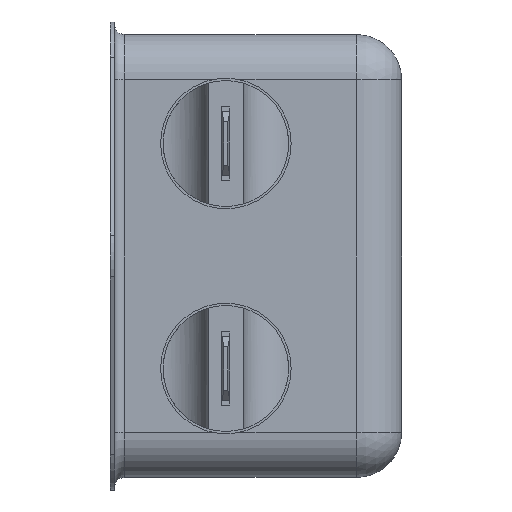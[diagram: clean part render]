
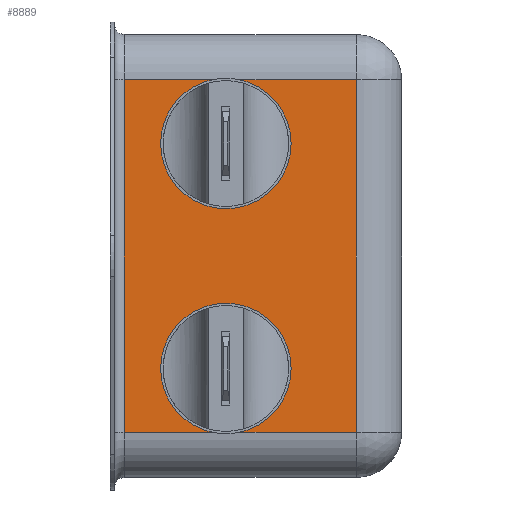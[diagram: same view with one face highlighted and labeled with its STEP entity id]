
A CAD part, left-side view. The second image highlights one B-rep face of the part: STEP entity #8889.
In plain terms, the highlighted planar face has unit normal (-1, 0, 0).
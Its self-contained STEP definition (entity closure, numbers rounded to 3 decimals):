
#211 = EDGE_CURVE ( 'NONE', #3933, #521, #1016, .T. ) ;
#296 = EDGE_CURVE ( 'NONE', #12578, #8401, #2027, .T. ) ;
#366 = LINE ( 'NONE', #2919, #9474 ) ;
#521 = VERTEX_POINT ( 'NONE', #14806 ) ;
#542 = EDGE_CURVE ( 'NONE', #15075, #521, #12002, .T. ) ;
#738 = VERTEX_POINT ( 'NONE', #10107 ) ;
#776 = LINE ( 'NONE', #5732, #6719 ) ;
#956 = VERTEX_POINT ( 'NONE', #4411 ) ;
#964 = CARTESIAN_POINT ( 'NONE',  ( 9.946, 4.5, -5.75 ) ) ;
#1016 = LINE ( 'NONE', #3266, #6968 ) ;
#1235 = EDGE_CURVE ( 'NONE', #738, #1728, #776, .T. ) ;
#1539 = LINE ( 'NONE', #13314, #5071 ) ;
#1702 = CARTESIAN_POINT ( 'NONE',  ( 9.946, 27.6, -40.85 ) ) ;
#1728 = VERTEX_POINT ( 'NONE', #7389 ) ;
#1730 = DIRECTION ( 'NONE',  ( 0., -1., 0. ) ) ;
#2027 = LINE ( 'NONE', #11453, #8357 ) ;
#2068 = VERTEX_POINT ( 'NONE', #15091 ) ;
#2147 = DIRECTION ( 'NONE',  ( 0., 0., 1. ) ) ;
#2205 = CARTESIAN_POINT ( 'NONE',  ( 9.946, 13.5, -16.1 ) ) ;
#2546 = VECTOR ( 'NONE', #6666, 1000. ) ;
#2646 = PLANE ( 'NONE',  #5745 ) ;
#2752 = DIRECTION ( 'NONE',  ( -1., 0., 0. ) ) ;
#2919 = CARTESIAN_POINT ( 'NONE',  ( 9.946, 13.5, -30.5 ) ) ;
#2926 = EDGE_CURVE ( 'NONE', #2068, #12728, #1539, .T. ) ;
#2960 = VECTOR ( 'NONE', #14720, 1000. ) ;
#3184 = EDGE_LOOP ( 'NONE', ( #6438, #12867, #12870, #5519 ) ) ;
#3266 = CARTESIAN_POINT ( 'NONE',  ( 9.946, 4.5, -5.75 ) ) ;
#3511 = EDGE_CURVE ( 'NONE', #1728, #12578, #13296, .T. ) ;
#3659 = ORIENTED_EDGE ( 'NONE', *, *, #14814, .F. ) ;
#3890 = VECTOR ( 'NONE', #12344, 1000. ) ;
#3918 = CARTESIAN_POINT ( 'NONE',  ( 9.946, 27.6, -40.85 ) ) ;
#3933 = VERTEX_POINT ( 'NONE', #964 ) ;
#4079 = DIRECTION ( 'NONE',  ( 0., 0., -1. ) ) ;
#4411 = CARTESIAN_POINT ( 'NONE',  ( 9.946, 13.5, -8.1 ) ) ;
#4465 = VECTOR ( 'NONE', #12859, 1000. ) ;
#4625 = CARTESIAN_POINT ( 'NONE',  ( 9.946, 13.5, -8.1 ) ) ;
#4725 = CARTESIAN_POINT ( 'NONE',  ( 9.946, 21.5, -38.5 ) ) ;
#4822 = EDGE_CURVE ( 'NONE', #15075, #14149, #10563, .T. ) ;
#4831 = CARTESIAN_POINT ( 'NONE',  ( 9.946, 21.5, -16.1 ) ) ;
#5071 = VECTOR ( 'NONE', #9592, 1000. ) ;
#5519 = ORIENTED_EDGE ( 'NONE', *, *, #2926, .F. ) ;
#5629 = CARTESIAN_POINT ( 'NONE',  ( 9.946, 13.5, -16.1 ) ) ;
#5640 = FACE_OUTER_BOUND ( 'NONE', #11876, .T. ) ;
#5732 = CARTESIAN_POINT ( 'NONE',  ( 9.946, 21.5, -30.5 ) ) ;
#5745 = AXIS2_PLACEMENT_3D ( 'NONE', #9885, #2752, #11064 ) ;
#5925 = VECTOR ( 'NONE', #1730, 1000. ) ;
#6020 = FACE_BOUND ( 'NONE', #6537, .T. ) ;
#6352 = VERTEX_POINT ( 'NONE', #2205 ) ;
#6438 = ORIENTED_EDGE ( 'NONE', *, *, #12573, .F. ) ;
#6537 = EDGE_LOOP ( 'NONE', ( #11375, #11656, #10178, #14409 ) ) ;
#6558 = CARTESIAN_POINT ( 'NONE',  ( 9.946, 27.6, -5.75 ) ) ;
#6569 = CARTESIAN_POINT ( 'NONE',  ( 9.946, 13.5, -30.5 ) ) ;
#6644 = ORIENTED_EDGE ( 'NONE', *, *, #542, .T. ) ;
#6666 = DIRECTION ( 'NONE',  ( 0., -1., 0. ) ) ;
#6719 = VECTOR ( 'NONE', #4079, 1000. ) ;
#6968 = VECTOR ( 'NONE', #12926, 1000. ) ;
#7257 = CARTESIAN_POINT ( 'NONE',  ( 9.946, 27.6, -5.75 ) ) ;
#7389 = CARTESIAN_POINT ( 'NONE',  ( 9.946, 21.5, -38.5 ) ) ;
#7595 = LINE ( 'NONE', #5629, #13448 ) ;
#8357 = VECTOR ( 'NONE', #11378, 1000. ) ;
#8401 = VERTEX_POINT ( 'NONE', #6569 ) ;
#8889 = ADVANCED_FACE ( 'NONE', ( #5640, #6020, #15029 ), #2646, .T. ) ;
#9472 = LINE ( 'NONE', #14672, #5925 ) ;
#9474 = VECTOR ( 'NONE', #11217, 1000. ) ;
#9495 = ORIENTED_EDGE ( 'NONE', *, *, #4822, .F. ) ;
#9592 = DIRECTION ( 'NONE',  ( 0., 0., -1. ) ) ;
#9794 = CARTESIAN_POINT ( 'NONE',  ( 9.946, 27.6, -40.85 ) ) ;
#9885 = CARTESIAN_POINT ( 'NONE',  ( 9.946, 0., -45.35 ) ) ;
#10107 = CARTESIAN_POINT ( 'NONE',  ( 9.946, 21.5, -30.5 ) ) ;
#10178 = ORIENTED_EDGE ( 'NONE', *, *, #296, .F. ) ;
#10563 = LINE ( 'NONE', #1702, #3890 ) ;
#11064 = DIRECTION ( 'NONE',  ( 0., 0., 1. ) ) ;
#11217 = DIRECTION ( 'NONE',  ( 0., 1., 0. ) ) ;
#11375 = ORIENTED_EDGE ( 'NONE', *, *, #1235, .F. ) ;
#11378 = DIRECTION ( 'NONE',  ( 0., 0., 1. ) ) ;
#11453 = CARTESIAN_POINT ( 'NONE',  ( 9.946, 13.5, -38.5 ) ) ;
#11656 = ORIENTED_EDGE ( 'NONE', *, *, #12345, .F. ) ;
#11876 = EDGE_LOOP ( 'NONE', ( #3659, #9495, #6644, #12617 ) ) ;
#12002 = LINE ( 'NONE', #3918, #2546 ) ;
#12344 = DIRECTION ( 'NONE',  ( 0., 0., 1. ) ) ;
#12345 = EDGE_CURVE ( 'NONE', #8401, #738, #366, .T. ) ;
#12381 = LINE ( 'NONE', #6558, #2960 ) ;
#12573 = EDGE_CURVE ( 'NONE', #956, #2068, #13855, .T. ) ;
#12578 = VERTEX_POINT ( 'NONE', #15204 ) ;
#12617 = ORIENTED_EDGE ( 'NONE', *, *, #211, .F. ) ;
#12728 = VERTEX_POINT ( 'NONE', #4831 ) ;
#12790 = EDGE_CURVE ( 'NONE', #12728, #6352, #9472, .T. ) ;
#12859 = DIRECTION ( 'NONE',  ( 0., 1., 0. ) ) ;
#12867 = ORIENTED_EDGE ( 'NONE', *, *, #13432, .F. ) ;
#12870 = ORIENTED_EDGE ( 'NONE', *, *, #12790, .F. ) ;
#12926 = DIRECTION ( 'NONE',  ( 0., 0., -1. ) ) ;
#12929 = VECTOR ( 'NONE', #14132, 1000. ) ;
#13296 = LINE ( 'NONE', #4725, #12929 ) ;
#13314 = CARTESIAN_POINT ( 'NONE',  ( 9.946, 21.5, -8.1 ) ) ;
#13432 = EDGE_CURVE ( 'NONE', #6352, #956, #7595, .T. ) ;
#13448 = VECTOR ( 'NONE', #2147, 1000. ) ;
#13855 = LINE ( 'NONE', #4625, #4465 ) ;
#14132 = DIRECTION ( 'NONE',  ( 0., -1., 0. ) ) ;
#14149 = VERTEX_POINT ( 'NONE', #7257 ) ;
#14409 = ORIENTED_EDGE ( 'NONE', *, *, #3511, .F. ) ;
#14672 = CARTESIAN_POINT ( 'NONE',  ( 9.946, 21.5, -16.1 ) ) ;
#14720 = DIRECTION ( 'NONE',  ( 0., -1., 0. ) ) ;
#14806 = CARTESIAN_POINT ( 'NONE',  ( 9.946, 4.5, -40.85 ) ) ;
#14814 = EDGE_CURVE ( 'NONE', #14149, #3933, #12381, .T. ) ;
#15029 = FACE_BOUND ( 'NONE', #3184, .T. ) ;
#15075 = VERTEX_POINT ( 'NONE', #9794 ) ;
#15091 = CARTESIAN_POINT ( 'NONE',  ( 9.946, 21.5, -8.1 ) ) ;
#15204 = CARTESIAN_POINT ( 'NONE',  ( 9.946, 13.5, -38.5 ) ) ;
